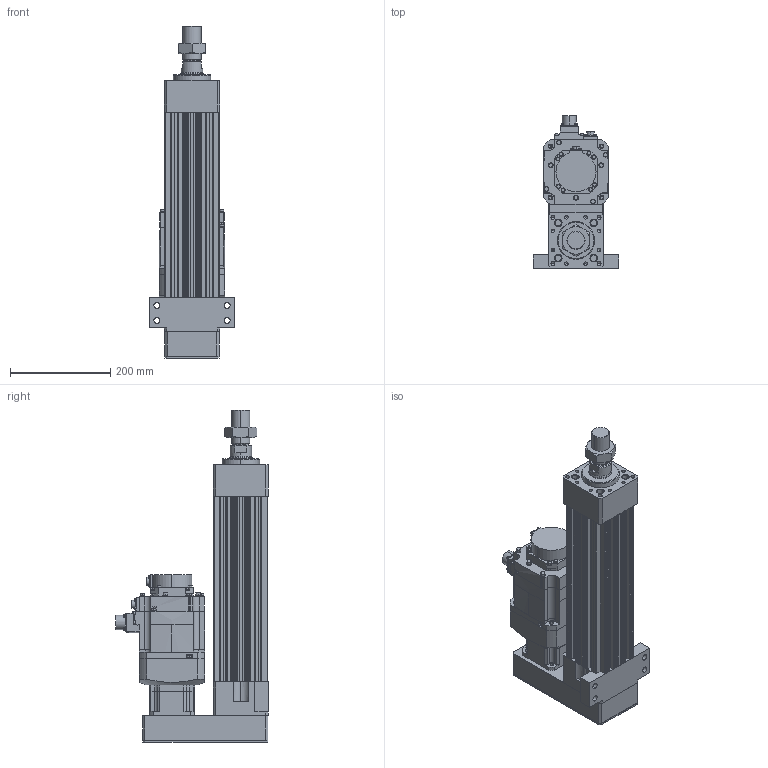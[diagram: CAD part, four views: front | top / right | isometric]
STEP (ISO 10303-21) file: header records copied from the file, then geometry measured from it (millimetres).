
FILE_DESCRIPTION (( 'STEP AP203' ), '1' );
FILE_NAME ('HES110NS(HS)-P200-W010G00-M-FFC.STEP', '2026-06-10T05:54:00', ( 'tms' ), ( '' ), 'SwSTEP 2.0', 'SolidWorks 2013', '' );
FILE_SCHEMA (( 'CONFIG_CONTROL_DESIGN' ));
Length unit declared in the file: millimetre
Products named in the file (8): M36X1.5P; HG-SR102B; HES110NS(HS)-P200-W010G00-M-FFC; AB0901; HES110-FFC-200; HES110-M-ROD-200; AB0902; HES110-P-G90
Assembly tree (7 placements, depth 2):
  HES110NS(HS)-P200-W010G00-M-FFC
    HES110-FFC-200
    HES110-M-ROD-200
    M36X1.5P
    HES110-P-G90
    AB0901
    AB0902
    HG-SR102B
Bounding box: 170 x 304.99 x 663 mm (x, y, z)
Volume: 7046348.6 mm3; surface area: 880806.4 mm2
Topology: 5 solids, 12 shells, 1191 faces, 3016 edges, 1941 vertices
Faces by surface type: cylinder 566, plane 511, cone 100, bspline 10, torus 4
Entity records: 37824 total; most frequent: CARTESIAN_POINT 7444, DIRECTION 6527, ORIENTED_EDGE 5940, EDGE_CURVE 2980, AXIS2_PLACEMENT_3D 2448, VERTEX_POINT 1941, LINE 1631, VECTOR 1631
